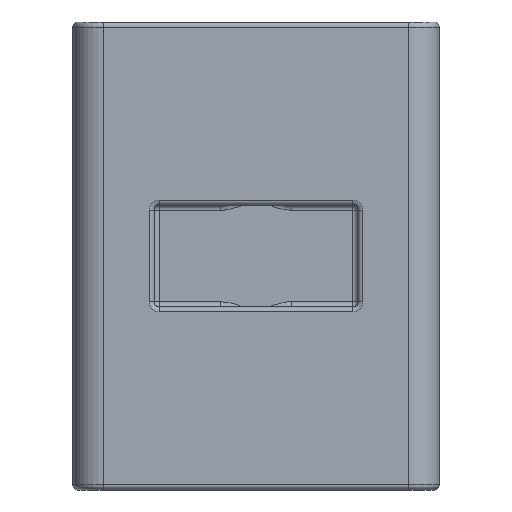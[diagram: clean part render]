
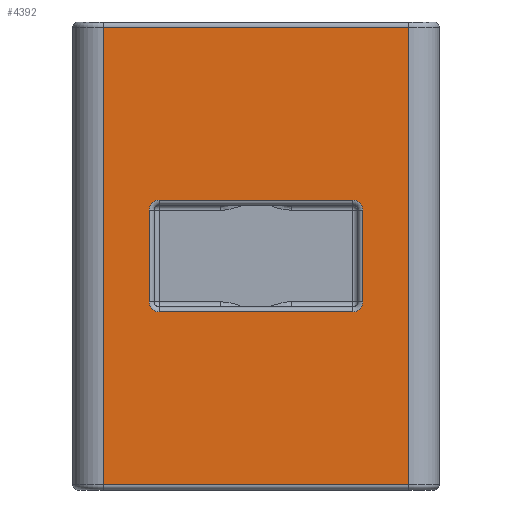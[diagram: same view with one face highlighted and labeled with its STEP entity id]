
A CAD part, front view. The second image highlights one B-rep face of the part: STEP entity #4392.
In plain terms, the highlighted planar face has unit normal (0, -1, 0).
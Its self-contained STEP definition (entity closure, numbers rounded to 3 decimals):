
#23 = ORIENTED_EDGE ( 'NONE', *, *, #259, .T. ) ;
#63 = LINE ( 'NONE', #2259, #3545 ) ;
#72 = ORIENTED_EDGE ( 'NONE', *, *, #4109, .T. ) ;
#177 = VERTEX_POINT ( 'NONE', #3991 ) ;
#259 = EDGE_CURVE ( 'NONE', #3830, #1309, #3159, .T. ) ;
#310 = CARTESIAN_POINT ( 'NONE',  ( -6.853, -14.691, 9.25 ) ) ;
#324 = EDGE_CURVE ( 'NONE', #4104, #802, #63, .T. ) ;
#327 = DIRECTION ( 'NONE',  ( 0., 0., -1. ) ) ;
#376 = EDGE_LOOP ( 'NONE', ( #23, #72, #3933, #4318 ) ) ;
#441 = ORIENTED_EDGE ( 'NONE', *, *, #3083, .F. ) ;
#469 = CIRCLE ( 'NONE', #3618, 0.5 ) ;
#485 = CARTESIAN_POINT ( 'NONE',  ( -11.103, -14.691, 14.25 ) ) ;
#542 = VECTOR ( 'NONE', #699, 1000. ) ;
#633 = DIRECTION ( 'NONE',  ( 0., 0., 1. ) ) ;
#669 = CARTESIAN_POINT ( 'NONE',  ( 3.147, -14.691, 23. ) ) ;
#689 = VECTOR ( 'NONE', #3518, 1000. ) ;
#693 = DIRECTION ( 'NONE',  ( 0., 0., -1. ) ) ;
#699 = DIRECTION ( 'NONE',  ( -1., 0., 0. ) ) ;
#800 = VERTEX_POINT ( 'NONE', #1509 ) ;
#802 = VERTEX_POINT ( 'NONE', #1853 ) ;
#895 = ORIENTED_EDGE ( 'NONE', *, *, #3196, .T. ) ;
#981 = DIRECTION ( 'NONE',  ( 0., -1., 0. ) ) ;
#990 = ORIENTED_EDGE ( 'NONE', *, *, #1167, .F. ) ;
#1014 = CARTESIAN_POINT ( 'NONE',  ( -6.853, -14.691, 13.75 ) ) ;
#1066 = VECTOR ( 'NONE', #4033, 1000. ) ;
#1117 = CARTESIAN_POINT ( 'NONE',  ( -9.603, -14.691, 22.75 ) ) ;
#1166 = FACE_BOUND ( 'NONE', #2329, .T. ) ;
#1167 = EDGE_CURVE ( 'NONE', #177, #3652, #469, .T. ) ;
#1186 = DIRECTION ( 'NONE',  ( 0., 0., 1. ) ) ;
#1195 = DIRECTION ( 'NONE',  ( 0., 1., 0. ) ) ;
#1201 = ORIENTED_EDGE ( 'NONE', *, *, #2781, .T. ) ;
#1218 = VERTEX_POINT ( 'NONE', #3412 ) ;
#1225 = ORIENTED_EDGE ( 'NONE', *, *, #4310, .T. ) ;
#1309 = VERTEX_POINT ( 'NONE', #3466 ) ;
#1315 = DIRECTION ( 'NONE',  ( 0., -1., 0. ) ) ;
#1350 = DIRECTION ( 'NONE',  ( 0., 0., 1. ) ) ;
#1374 = VERTEX_POINT ( 'NONE', #4230 ) ;
#1424 = VERTEX_POINT ( 'NONE', #2197 ) ;
#1427 = LINE ( 'NONE', #3050, #542 ) ;
#1509 = CARTESIAN_POINT ( 'NONE',  ( -7.353, -14.691, 9.25 ) ) ;
#1544 = CARTESIAN_POINT ( 'NONE',  ( -11.103, -14.691, 23. ) ) ;
#1853 = CARTESIAN_POINT ( 'NONE',  ( -6.853, -14.691, 8.75 ) ) ;
#1869 = VECTOR ( 'NONE', #327, 1000. ) ;
#1887 = PLANE ( 'NONE',  #2987 ) ;
#1971 = CIRCLE ( 'NONE', #4317, 0.5 ) ;
#2048 = CARTESIAN_POINT ( 'NONE',  ( 2.647, -14.691, 8.75 ) ) ;
#2053 = AXIS2_PLACEMENT_3D ( 'NONE', #310, #2668, #633 ) ;
#2197 = CARTESIAN_POINT ( 'NONE',  ( 3.147, -14.691, 9.25 ) ) ;
#2236 = DIRECTION ( 'NONE',  ( 0., 0., 1. ) ) ;
#2259 = CARTESIAN_POINT ( 'NONE',  ( -11.103, -14.691, 8.75 ) ) ;
#2262 = CARTESIAN_POINT ( 'NONE',  ( 5.397, -14.691, 0.25 ) ) ;
#2329 = EDGE_LOOP ( 'NONE', ( #441, #1201, #990, #1225, #2873, #895, #3760, #3128 ) ) ;
#2354 = CARTESIAN_POINT ( 'NONE',  ( -9.603, -14.691, 23. ) ) ;
#2638 = DIRECTION ( 'NONE',  ( 1., 0., 0. ) ) ;
#2668 = DIRECTION ( 'NONE',  ( 0., -1., 0. ) ) ;
#2685 = CARTESIAN_POINT ( 'NONE',  ( -7.353, -14.691, 23. ) ) ;
#2764 = LINE ( 'NONE', #2354, #1869 ) ;
#2781 = EDGE_CURVE ( 'NONE', #800, #3652, #3673, .T. ) ;
#2873 = ORIENTED_EDGE ( 'NONE', *, *, #3993, .F. ) ;
#2951 = AXIS2_PLACEMENT_3D ( 'NONE', #3010, #981, #3358 ) ;
#2987 = AXIS2_PLACEMENT_3D ( 'NONE', #1544, #1195, #2236 ) ;
#2995 = VERTEX_POINT ( 'NONE', #1117 ) ;
#3010 = CARTESIAN_POINT ( 'NONE',  ( 2.647, -14.691, 9.25 ) ) ;
#3046 = VECTOR ( 'NONE', #1186, 1000. ) ;
#3050 = CARTESIAN_POINT ( 'NONE',  ( -9.603, -14.691, 22.75 ) ) ;
#3054 = CARTESIAN_POINT ( 'NONE',  ( -7.353, -14.691, 13.75 ) ) ;
#3060 = FACE_OUTER_BOUND ( 'NONE', #376, .T. ) ;
#3068 = LINE ( 'NONE', #669, #3891 ) ;
#3083 = EDGE_CURVE ( 'NONE', #800, #802, #3396, .T. ) ;
#3113 = EDGE_CURVE ( 'NONE', #4104, #1424, #4224, .T. ) ;
#3128 = ORIENTED_EDGE ( 'NONE', *, *, #324, .T. ) ;
#3159 = LINE ( 'NONE', #3201, #3046 ) ;
#3196 = EDGE_CURVE ( 'NONE', #3550, #1424, #3068, .T. ) ;
#3201 = CARTESIAN_POINT ( 'NONE',  ( 5.397, -14.691, 23. ) ) ;
#3289 = VECTOR ( 'NONE', #2638, 1000. ) ;
#3350 = CARTESIAN_POINT ( 'NONE',  ( 2.647, -14.691, 13.75 ) ) ;
#3358 = DIRECTION ( 'NONE',  ( 0., 0., 1. ) ) ;
#3374 = DIRECTION ( 'NONE',  ( 0., -1., 0. ) ) ;
#3386 = LINE ( 'NONE', #485, #689 ) ;
#3396 = CIRCLE ( 'NONE', #2053, 0.5 ) ;
#3412 = CARTESIAN_POINT ( 'NONE',  ( 2.647, -14.691, 14.25 ) ) ;
#3466 = CARTESIAN_POINT ( 'NONE',  ( 5.397, -14.691, 22.75 ) ) ;
#3518 = DIRECTION ( 'NONE',  ( 1., 0., 0. ) ) ;
#3545 = VECTOR ( 'NONE', #3944, 1000. ) ;
#3550 = VERTEX_POINT ( 'NONE', #4037 ) ;
#3618 = AXIS2_PLACEMENT_3D ( 'NONE', #1014, #3374, #1350 ) ;
#3652 = VERTEX_POINT ( 'NONE', #3054 ) ;
#3673 = LINE ( 'NONE', #2685, #1066 ) ;
#3691 = DIRECTION ( 'NONE',  ( 0., 0., 1. ) ) ;
#3760 = ORIENTED_EDGE ( 'NONE', *, *, #3113, .F. ) ;
#3830 = VERTEX_POINT ( 'NONE', #2262 ) ;
#3891 = VECTOR ( 'NONE', #693, 1000. ) ;
#3933 = ORIENTED_EDGE ( 'NONE', *, *, #4018, .T. ) ;
#3934 = EDGE_CURVE ( 'NONE', #1374, #3830, #3999, .T. ) ;
#3944 = DIRECTION ( 'NONE',  ( -1., 0., 0. ) ) ;
#3991 = CARTESIAN_POINT ( 'NONE',  ( -6.853, -14.691, 14.25 ) ) ;
#3993 = EDGE_CURVE ( 'NONE', #3550, #1218, #1971, .T. ) ;
#3999 = LINE ( 'NONE', #4008, #3289 ) ;
#4008 = CARTESIAN_POINT ( 'NONE',  ( -11.103, -14.691, 0.25 ) ) ;
#4018 = EDGE_CURVE ( 'NONE', #2995, #1374, #2764, .T. ) ;
#4033 = DIRECTION ( 'NONE',  ( 0., 0., 1. ) ) ;
#4037 = CARTESIAN_POINT ( 'NONE',  ( 3.147, -14.691, 13.75 ) ) ;
#4104 = VERTEX_POINT ( 'NONE', #2048 ) ;
#4109 = EDGE_CURVE ( 'NONE', #1309, #2995, #1427, .T. ) ;
#4224 = CIRCLE ( 'NONE', #2951, 0.5 ) ;
#4230 = CARTESIAN_POINT ( 'NONE',  ( -9.603, -14.691, 0.25 ) ) ;
#4310 = EDGE_CURVE ( 'NONE', #177, #1218, #3386, .T. ) ;
#4317 = AXIS2_PLACEMENT_3D ( 'NONE', #3350, #1315, #3691 ) ;
#4318 = ORIENTED_EDGE ( 'NONE', *, *, #3934, .T. ) ;
#4392 = ADVANCED_FACE ( 'NONE', ( #1166, #3060 ), #1887, .F. ) ;
